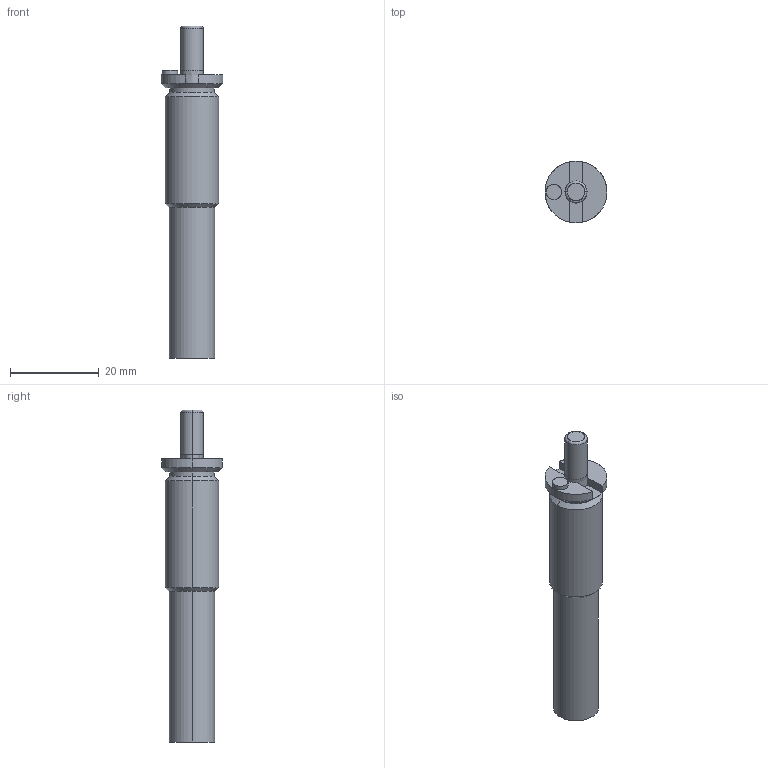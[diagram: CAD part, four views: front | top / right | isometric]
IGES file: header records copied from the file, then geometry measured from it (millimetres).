
Global section: file name: E:\UnigraphicsGraphicData\MISUMI_PRESS-PARTS\IGES\3d_mgsb12-10_04559_r00.igs; native system: NX V5.0; preprocessor: UGS NX IGES V5.0; author: MISUMI; date: 20110105.161433; units: millimetre
Bounding box: 14 x 13.96 x 75 mm (x, y, z)
Surface area: 2759 mm2 (no closed solid volume)
Topology: 0 solids, 0 shells, 36 faces, 198 edges, 198 vertices
Faces by surface type: bspline 36
